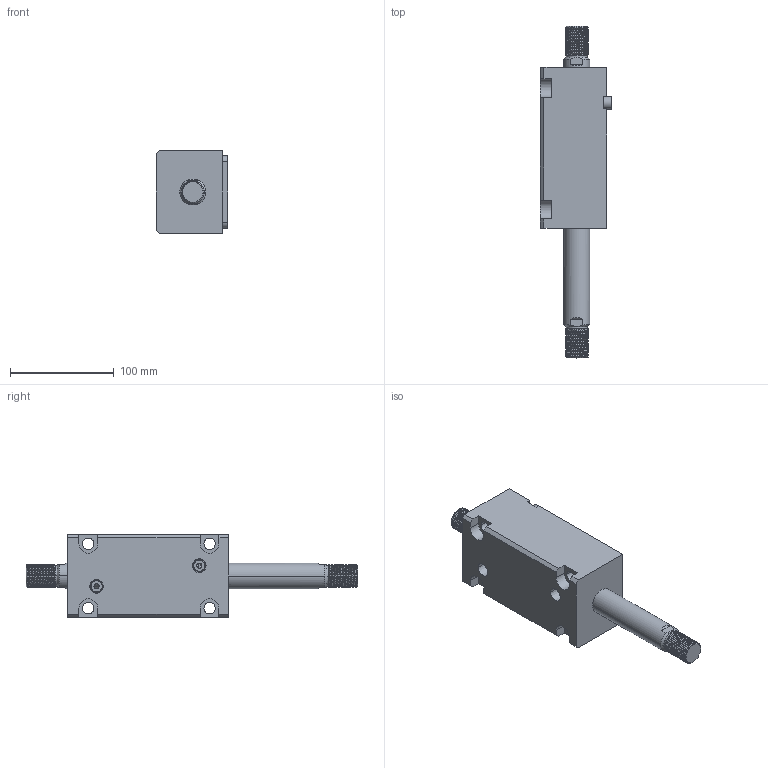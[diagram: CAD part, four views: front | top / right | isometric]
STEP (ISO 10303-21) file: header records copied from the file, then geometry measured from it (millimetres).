
FILE_DESCRIPTION (( 'STEP AP214' ), '1' );
FILE_NAME ('chtb-lw40x85w_asm.STEP', '2018-06-04T10:27:36', ( 'Windows' ), ( 'Microsoft' ), 'SwSTEP 2.0', 'SolidWorks 2015', '' );
FILE_SCHEMA (( 'AUTOMOTIVE_DESIGN' ));
Length unit declared in the file: millimetre
Products named in the file (5): CHTB-SW40X85NHSG; CHTB-SD40QG; CHTB-LW40X85NBT; CHTB-LA40PJ; chtb-lw40x85w_asm
Assembly tree (4 placements, depth 2):
  chtb-lw40x85w_asm
    CHTB-LA40PJ
    CHTB-LW40X85NBT
    CHTB-SD40QG
    CHTB-SW40X85NHSG
Bounding box: 68.5 x 320 x 80 mm (x, y, z)
Volume: 764502.5 mm3; surface area: 125383 mm2
Topology: 4 solids, 4 shells, 258 faces, 711 edges, 473 vertices
Faces by surface type: cylinder 152, plane 59, bspline 18, cone 17, torus 12
Entity records: 17539 total; most frequent: CARTESIAN_POINT 11292, ORIENTED_EDGE 1410, DIRECTION 1124, EDGE_CURVE 705, VERTEX_POINT 473, AXIS2_PLACEMENT_3D 433, EDGE_LOOP 292, ADVANCED_FACE 258
